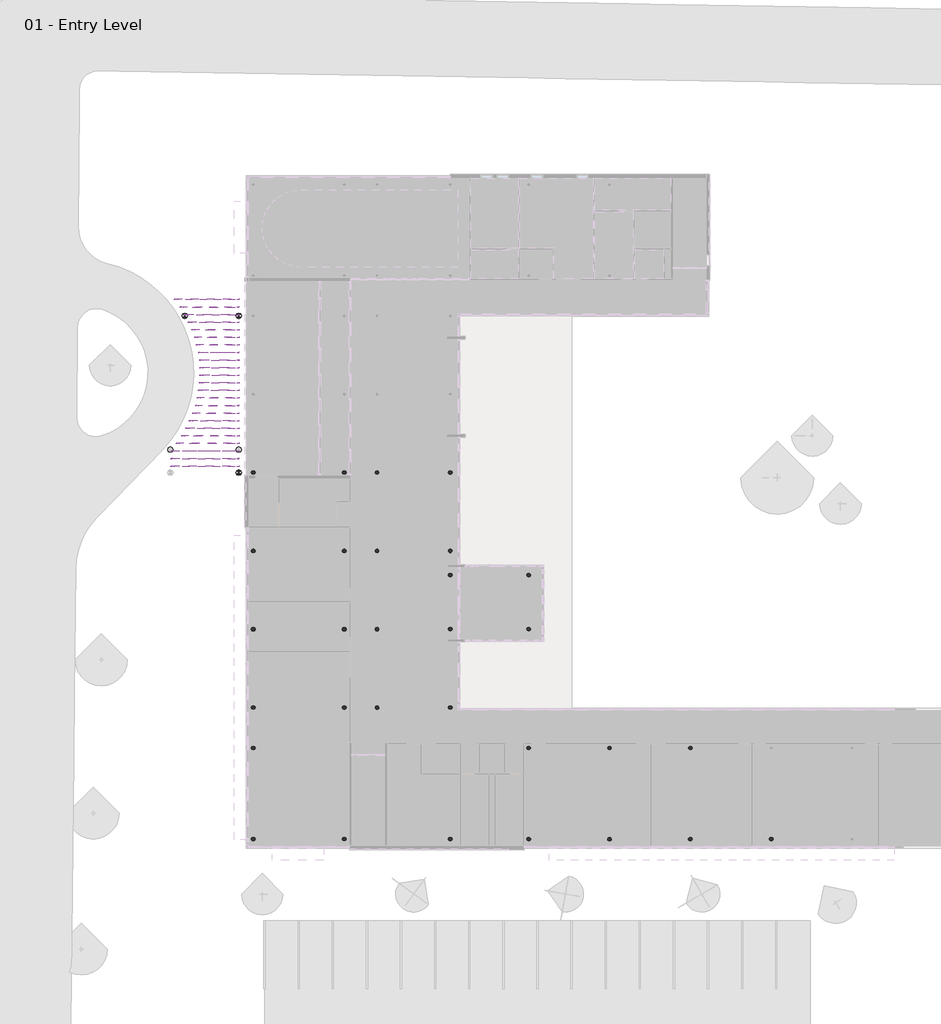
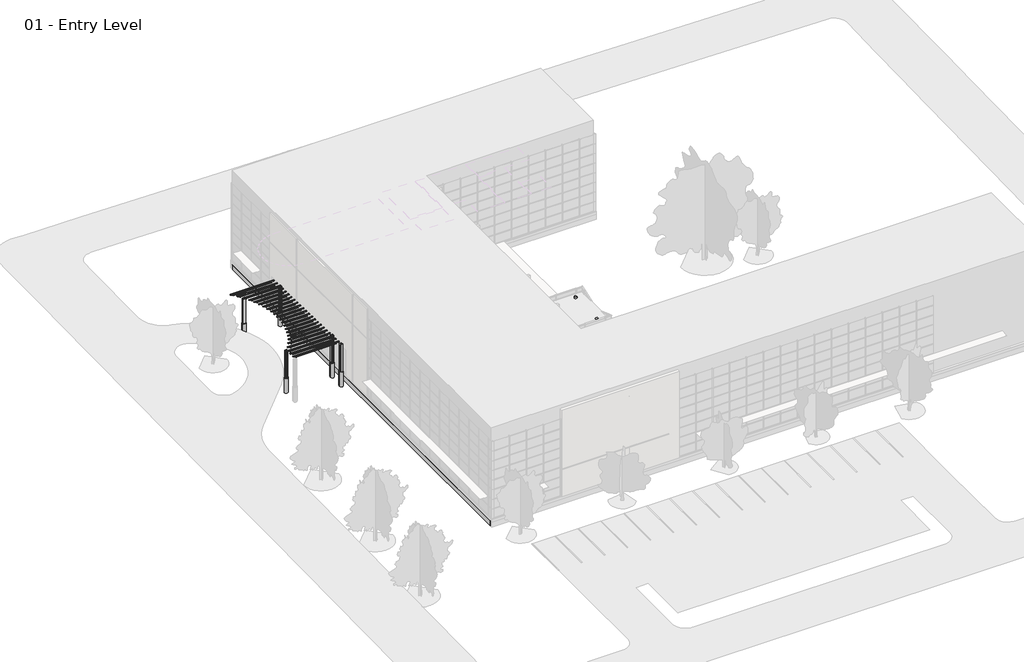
# One storey, part 33 of 35: 40 columns, 28 beams.
"""IFC4 building model written with IfcOpenShell, lengths in millimetres."""

from ifc_helpers import new_model, si_unit, point, frame, frame_2d, origin, origin_with_axes, place, context, project, spatial, polyline, circle_curve, trimmed, segment, composite_curve, outline, extrude, faceted_brep, transform, mapped, element, save
from components import k_series_bar_joist_rod_web_8k1_28a673dc, k_series_bar_joist_rod_web_8k1_6a32b11c, k_series_bar_joist_rod_web_8k1_70c83856, k_series_bar_joist_rod_web_8k1_5e61e8aa, k_series_bar_joist_rod_web_8k1_022d90c5, k_series_bar_joist_rod_web_8k1_8d8b8ead, k_series_bar_joist_rod_web_8k1_cd9e0d93, k_series_bar_joist_rod_web_8k1_b237b75d, k_series_bar_joist_rod_web_8k1_ddfd0a0b, k_series_bar_joist_rod_web_8k1_325491ab, k_series_bar_joist_rod_web_8k1_72458764, k_series_bar_joist_rod_web_8k1_e624906a, k_series_bar_joist_rod_web_8k1_c28a06ce, k_series_bar_joist_rod_web_8k1_099c8507, k_series_bar_joist_rod_web_8k1_99de95d9, k_series_bar_joist_rod_web_8k1_99a1bd95, k_series_bar_joist_rod_web_8k1_ba0566a2, k_series_bar_joist_rod_web_8k1_facdae25, k_series_bar_joist_rod_web_8k1_1f0329fa, k_series_bar_joist_rod_web_8k1_2817c077, k_series_bar_joist_rod_web_8k1_97b35054, k_series_bar_joist_rod_web_8k1_8d9d1768, column_5a4f3ead

model = new_model("IFC4")

# Units and contexts
model_context = context("Model", 3, world=origin())
ifc_project = project(units=[si_unit("LENGTHUNIT", "METRE", prefix="MILLI")], contexts=[model_context])

# Site, building, storey
site = spatial("IfcSite", under=ifc_project)
building = spatial("IfcBuilding", under=site)
storey = spatial("IfcBuildingStorey", under=building, Name="01 - Entry Level", Elevation=0.0)

# Beams
placement = place(None, origin())
element("IfcBeam", 1, ObjectType="Concrete-Rectangular Beam : 12 x 24", at=placement, inside=storey, context=model_context, shape_type="Brep", body=[
    faceted_brep([(17288.7957476, 16751.225, -406.4), (16983.9957476, 16751.225, -406.4), (16983.9957476, 11106.075, -406.4), (17288.7957476, 11106.075, -406.4), (17288.7957476, 16446.425, -406.4), (17288.7957476, 16751.225, -1016.0), (17288.7957476, 11106.075, -1016.0), (17288.7957476, 16446.425, -1016.0), (16983.9957476, 16751.225, -1016.0), (16983.9957476, 11106.075, -1016.0)], [[[0, 1, 2, 3, 4]], [[5, 0, 4, 3, 6, 7]], [[8, 5, 7, 6, 9]], [[1, 8, 9, 2]], [[1, 0, 5, 8]], [[3, 2, 9, 6]]]),
])
element("IfcBeam", 2, ObjectType="Concrete-Rectangular Beam : 12 x 24", at=placement, inside=storey, context=model_context, shape_type="Brep", body=[
    faceted_brep([(24051.7865197, 16446.425, -406.4), (24051.7865197, 16751.225, -406.4), (23746.9865197, 16751.225, -406.4), (17288.7957476, 16751.225, -406.4), (17288.7957476, 16446.425, -406.4), (24051.7865197, 16446.425, -1016.0), (17288.7957476, 16446.425, -1016.0), (24051.7865197, 16751.225, -1016.0), (17288.7957476, 16751.225, -1016.0), (23746.9865197, 16751.225, -1016.0)], [[[0, 1, 2, 3, 4]], [[5, 0, 4, 6]], [[7, 5, 6, 8, 9]], [[1, 7, 9, 8, 3, 2]], [[1, 0, 5, 7]], [[4, 3, 8, 6]]]),
])
element("IfcBeam", 3, ObjectType="Concrete-Rectangular Beam : 12 x 24", at=placement, inside=storey, context=model_context, shape_type="Brep", body=[
    faceted_brep([(24051.7865197, 22650.375, -406.4), (23746.9865197, 22650.375, -406.4), (23746.9865197, 22345.575, -406.4), (23746.9865197, 16751.225, -406.4), (24051.7865197, 16751.225, -406.4), (24051.7865197, 22650.375, -1016.0), (24051.7865197, 16751.225, -1016.0), (23746.9865197, 22650.375, -1016.0), (23746.9865197, 16751.225, -1016.0), (23746.9865197, 22345.575, -1016.0)], [[[0, 1, 2, 3, 4]], [[5, 0, 4, 6]], [[7, 5, 6, 8, 9]], [[1, 7, 9, 8, 3, 2]], [[1, 0, 5, 7]], [[4, 3, 8, 6]]]),
])
element("IfcBeam", 4, ObjectType="Concrete-Rectangular Beam : 12 x 24", at=placement, inside=storey, context=model_context, shape_type="Brep", body=[
    faceted_brep([(16983.9957476, 22650.375, -406.4), (16983.9957476, 22345.575, -406.4), (23746.9865197, 22345.575, -406.4), (23746.9865197, 22650.375, -406.4), (17288.7957476, 22650.375, -406.4), (16983.9957476, 22650.375, -1016.0), (23746.9865197, 22650.375, -1016.0), (17288.7957476, 22650.375, -1016.0), (16983.9957476, 22345.575, -1016.0), (23746.9865197, 22345.575, -1016.0)], [[[0, 1, 2, 3, 4]], [[5, 0, 4, 3, 6, 7]], [[8, 5, 7, 6, 9]], [[1, 8, 9, 2]], [[1, 0, 5, 8]], [[3, 2, 9, 6]]]),
])
element("IfcBeam", 5, ObjectType="Concrete-Rectangular Beam : 12 x 24", at=placement, inside=storey, context=model_context, shape_type="SweptSolid", body=[
    extrude(outline(polyline([(73.9457476, 53625.675), (378.7457476, 53625.675), (378.7457476, 152.325), (73.9457476, 152.325), (73.9457476, 53625.675)])), frame((0.0, 0.0, -1016.0), z_axis=(0.0, 0.0, 1.0), x_axis=(1.0, 0.0, 0.0)), (0.0, 0.0, 1.0), 609.6),
])
k_series_bar_joist_rod_web_8k1_shape = k_series_bar_joist_rod_web_8k1_28a673dc(model_context)
element("IfcBeam", 6, ObjectType="K-Series Bar Joist-Rod Web : 8K1", at=placement, inside=storey, context=model_context, shape_type="MappedRepresentation", body=[
    mapped(k_series_bar_joist_rod_web_8k1_shape, transform((-3104.8739712, 43980.6692262, 3578.0497607), x_axis=(1.0, 0.0, 0.0), y_axis=(0.0, 0.9995376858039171, -0.030404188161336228), z_axis=(0.0, 0.030404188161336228, 0.9995376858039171))),
])
k_series_bar_joist_rod_web_8k1_2_shape = k_series_bar_joist_rod_web_8k1_6a32b11c(model_context)
element("IfcBeam", 7, ObjectType="K-Series Bar Joist-Rod Web : 8K1", at=placement, inside=storey, context=model_context, shape_type="MappedRepresentation", body=[
    mapped(k_series_bar_joist_rod_web_8k1_2_shape, transform((-2881.5442284, 43371.351053, 3596.5841538), x_axis=(1.0, 0.0, 0.0), y_axis=(0.0, 0.9995376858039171, -0.030404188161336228), z_axis=(0.0, 0.030404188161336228, 0.9995376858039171))),
])
k_series_bar_joist_rod_web_8k1_3_shape = k_series_bar_joist_rod_web_8k1_70c83856(model_context)
element("IfcBeam", 8, ObjectType="K-Series Bar Joist-Rod Web : 8K1", at=placement, inside=storey, context=model_context, shape_type="MappedRepresentation", body=[
    mapped(k_series_bar_joist_rod_web_8k1_3_shape, transform((-2692.822966, 42762.0328797, 3615.1185469), x_axis=(1.0, 0.0, 0.0), y_axis=(0.0, 0.9995376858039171, -0.030404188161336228), z_axis=(0.0, 0.030404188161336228, 0.9995376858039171))),
])
k_series_bar_joist_rod_web_8k1_4_shape = k_series_bar_joist_rod_web_8k1_5e61e8aa(model_context)
element("IfcBeam", 9, ObjectType="K-Series Bar Joist-Rod Web : 8K1", at=placement, inside=storey, context=model_context, shape_type="MappedRepresentation", body=[
    mapped(k_series_bar_joist_rod_web_8k1_4_shape, transform((-2534.1156648, 42152.7147064, 3633.65294), x_axis=(1.0, 0.0, 0.0), y_axis=(0.0, 0.9995376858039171, -0.030404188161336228), z_axis=(0.0, 0.030404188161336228, 0.9995376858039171))),
])
k_series_bar_joist_rod_web_8k1_5_shape = k_series_bar_joist_rod_web_8k1_022d90c5(model_context)
element("IfcBeam", 10, ObjectType="K-Series Bar Joist-Rod Web : 8K1", at=placement, inside=storey, context=model_context, shape_type="MappedRepresentation", body=[
    mapped(k_series_bar_joist_rod_web_8k1_5_shape, transform((-2402.1725174, 41543.3965332, 3652.1873331), x_axis=(1.0, 0.0, 0.0), y_axis=(0.0, 0.9995376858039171, -0.030404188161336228), z_axis=(0.0, 0.030404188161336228, 0.9995376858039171))),
])
k_series_bar_joist_rod_web_8k1_6_shape = k_series_bar_joist_rod_web_8k1_8d8b8ead(model_context)
element("IfcBeam", 11, ObjectType="K-Series Bar Joist-Rod Web : 8K1", at=placement, inside=storey, context=model_context, shape_type="MappedRepresentation", body=[
    mapped(k_series_bar_joist_rod_web_8k1_6_shape, transform((-2294.6420394, 40934.0783599, 3670.7217262), x_axis=(1.0, 0.0, 0.0), y_axis=(0.0, 0.9995376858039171, -0.030404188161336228), z_axis=(0.0, 0.030404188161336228, 0.9995376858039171))),
])
k_series_bar_joist_rod_web_8k1_7_shape = k_series_bar_joist_rod_web_8k1_cd9e0d93(model_context)
element("IfcBeam", 12, ObjectType="K-Series Bar Joist-Rod Web : 8K1", at=placement, inside=storey, context=model_context, shape_type="MappedRepresentation", body=[
    mapped(k_series_bar_joist_rod_web_8k1_7_shape, transform((-2209.8086278, 40324.7601866, 3689.2561193), x_axis=(1.0, 0.0, 0.0), y_axis=(0.0, 0.9995376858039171, -0.030404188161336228), z_axis=(0.0, 0.030404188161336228, 0.9995376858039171))),
])
k_series_bar_joist_rod_web_8k1_8_shape = k_series_bar_joist_rod_web_8k1_b237b75d(model_context)
element("IfcBeam", 13, ObjectType="K-Series Bar Joist-Rod Web : 8K1", at=placement, inside=storey, context=model_context, shape_type="MappedRepresentation", body=[
    mapped(k_series_bar_joist_rod_web_8k1_8_shape, transform((-2146.4311179, 39715.4420134, 3707.7905124), x_axis=(1.0, 0.0, 0.0), y_axis=(0.0, 0.9995376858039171, -0.030404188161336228), z_axis=(0.0, 0.030404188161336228, 0.9995376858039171))),
])
k_series_bar_joist_rod_web_8k1_9_shape = k_series_bar_joist_rod_web_8k1_ddfd0a0b(model_context)
element("IfcBeam", 14, ObjectType="K-Series Bar Joist-Rod Web : 8K1", at=placement, inside=storey, context=model_context, shape_type="MappedRepresentation", body=[
    mapped(k_series_bar_joist_rod_web_8k1_9_shape, transform((-2103.640984, 39106.1238401, 3726.3249056), x_axis=(1.0, 0.0, 0.0), y_axis=(0.0, 0.9995376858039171, -0.030404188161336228), z_axis=(0.0, 0.030404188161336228, 0.9995376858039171))),
])
k_series_bar_joist_rod_web_8k1_10_shape = k_series_bar_joist_rod_web_8k1_325491ab(model_context)
element("IfcBeam", 15, ObjectType="K-Series Bar Joist-Rod Web : 8K1", at=placement, inside=storey, context=model_context, shape_type="MappedRepresentation", body=[
    mapped(k_series_bar_joist_rod_web_8k1_10_shape, transform((-2080.8782987, 38496.8056668, 3744.8592987), x_axis=(1.0, 0.0, 0.0), y_axis=(0.0, 0.9995376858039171, -0.030404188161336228), z_axis=(0.0, 0.030404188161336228, 0.9995376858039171))),
])
k_series_bar_joist_rod_web_8k1_11_shape = k_series_bar_joist_rod_web_8k1_72458764(model_context)
element("IfcBeam", 16, ObjectType="K-Series Bar Joist-Rod Web : 8K1", at=placement, inside=storey, context=model_context, shape_type="MappedRepresentation", body=[
    mapped(k_series_bar_joist_rod_web_8k1_11_shape, transform((-2077.8534975, 37887.4874936, 3763.3936918), x_axis=(1.0, 0.0, 0.0), y_axis=(0.0, 0.9995376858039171, -0.030404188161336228), z_axis=(0.0, 0.030404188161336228, 0.9995376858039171))),
])
k_series_bar_joist_rod_web_8k1_12_shape = k_series_bar_joist_rod_web_8k1_e624906a(model_context)
element("IfcBeam", 17, ObjectType="K-Series Bar Joist-Rod Web : 8K1", at=placement, inside=storey, context=model_context, shape_type="MappedRepresentation", body=[
    mapped(k_series_bar_joist_rod_web_8k1_12_shape, transform((-2094.5285249, 37278.1693203, 3781.9280849), x_axis=(1.0, 0.0, 0.0), y_axis=(0.0, 0.9995376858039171, -0.030404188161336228), z_axis=(0.0, 0.030404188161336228, 0.9995376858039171))),
])
k_series_bar_joist_rod_web_8k1_13_shape = k_series_bar_joist_rod_web_8k1_c28a06ce(model_context)
element("IfcBeam", 18, ObjectType="K-Series Bar Joist-Rod Web : 8K1", at=placement, inside=storey, context=model_context, shape_type="MappedRepresentation", body=[
    mapped(k_series_bar_joist_rod_web_8k1_13_shape, transform((-2131.1144026, 36668.851147, 3800.462478), x_axis=(1.0, 0.0, 0.0), y_axis=(0.0, 0.9995376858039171, -0.030404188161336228), z_axis=(0.0, 0.030404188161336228, 0.9995376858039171))),
])
k_series_bar_joist_rod_web_8k1_14_shape = k_series_bar_joist_rod_web_8k1_099c8507(model_context)
element("IfcBeam", 19, ObjectType="K-Series Bar Joist-Rod Web : 8K1", at=placement, inside=storey, context=model_context, shape_type="MappedRepresentation", body=[
    mapped(k_series_bar_joist_rod_web_8k1_14_shape, transform((-2188.0848485, 36059.5329738, 3818.9968711), x_axis=(1.0, 0.0, 0.0), y_axis=(0.0, 0.9995376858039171, -0.030404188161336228), z_axis=(0.0, 0.030404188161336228, 0.9995376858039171))),
])
k_series_bar_joist_rod_web_8k1_15_shape = k_series_bar_joist_rod_web_8k1_99de95d9(model_context)
element("IfcBeam", 20, ObjectType="K-Series Bar Joist-Rod Web : 8K1", at=placement, inside=storey, context=model_context, shape_type="MappedRepresentation", body=[
    mapped(k_series_bar_joist_rod_web_8k1_15_shape, transform((-2266.208057, 35450.2148005, 3837.5312642), x_axis=(1.0, 0.0, 0.0), y_axis=(0.0, 0.9995376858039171, -0.030404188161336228), z_axis=(0.0, 0.030404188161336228, 0.9995376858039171))),
])
k_series_bar_joist_rod_web_8k1_16_shape = k_series_bar_joist_rod_web_8k1_99a1bd95(model_context)
element("IfcBeam", 21, ObjectType="K-Series Bar Joist-Rod Web : 8K1", at=placement, inside=storey, context=model_context, shape_type="MappedRepresentation", body=[
    mapped(k_series_bar_joist_rod_web_8k1_16_shape, transform((-2366.6018476, 34840.8966272, 3856.0656573), x_axis=(1.0, 0.0, 0.0), y_axis=(0.0, 0.9995376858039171, -0.030404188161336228), z_axis=(0.0, 0.030404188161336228, 0.9995376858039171))),
])
k_series_bar_joist_rod_web_8k1_17_shape = k_series_bar_joist_rod_web_8k1_ba0566a2(model_context)
element("IfcBeam", 22, ObjectType="K-Series Bar Joist-Rod Web : 8K1", at=placement, inside=storey, context=model_context, shape_type="MappedRepresentation", body=[
    mapped(k_series_bar_joist_rod_web_8k1_17_shape, transform((-2490.8221092, 34231.578454, 3874.6000504), x_axis=(1.0, 0.0, 0.0), y_axis=(0.0, 0.9995376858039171, -0.030404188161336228), z_axis=(0.0, 0.030404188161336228, 0.9995376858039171))),
])
k_series_bar_joist_rod_web_8k1_18_shape = k_series_bar_joist_rod_web_8k1_facdae25(model_context)
element("IfcBeam", 23, ObjectType="K-Series Bar Joist-Rod Web : 8K1", at=placement, inside=storey, context=model_context, shape_type="MappedRepresentation", body=[
    mapped(k_series_bar_joist_rod_web_8k1_18_shape, transform((-2641.0026789, 33622.2602807, 3893.1344435), x_axis=(1.0, 0.0, 0.0), y_axis=(0.0, 0.9995376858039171, -0.030404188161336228), z_axis=(0.0, 0.030404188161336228, 0.9995376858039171))),
])
k_series_bar_joist_rod_web_8k1_19_shape = k_series_bar_joist_rod_web_8k1_1f0329fa(model_context)
element("IfcBeam", 24, ObjectType="K-Series Bar Joist-Rod Web : 8K1", at=placement, inside=storey, context=model_context, shape_type="MappedRepresentation", body=[
    mapped(k_series_bar_joist_rod_web_8k1_19_shape, transform((-2820.0804836, 33012.9421074, 3911.6688366), x_axis=(1.0, 0.0, 0.0), y_axis=(0.0, 0.9995376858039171, -0.030404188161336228), z_axis=(0.0, 0.030404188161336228, 0.9995376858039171))),
])
k_series_bar_joist_rod_web_8k1_20_shape = k_series_bar_joist_rod_web_8k1_2817c077(model_context)
element("IfcBeam", 25, ObjectType="K-Series Bar Joist-Rod Web : 8K1", at=placement, inside=storey, context=model_context, shape_type="MappedRepresentation", body=[
    mapped(k_series_bar_joist_rod_web_8k1_20_shape, transform((-3032.172395, 32403.6239342, 3930.2032297), x_axis=(1.0, 0.0, 0.0), y_axis=(0.0, 0.9995376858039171, -0.030404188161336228), z_axis=(0.0, 0.030404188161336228, 0.9995376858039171))),
])
k_series_bar_joist_rod_web_8k1_21_shape = k_series_bar_joist_rod_web_8k1_97b35054(model_context)
element("IfcBeam", 26, ObjectType="K-Series Bar Joist-Rod Web : 8K1", at=placement, inside=storey, context=model_context, shape_type="MappedRepresentation", body=[
    mapped(k_series_bar_joist_rod_web_8k1_21_shape, transform((-3234.7719068, 31794.3057609, 3948.7376228), x_axis=(1.0, 0.0, 0.0), y_axis=(0.0, 0.9995376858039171, -0.030404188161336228), z_axis=(0.0, 0.030404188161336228, 0.9995376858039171))),
])
k_series_bar_joist_rod_web_8k1_22_shape = k_series_bar_joist_rod_web_8k1_8d9d1768(model_context)
element("IfcBeam", 27, ObjectType="K-Series Bar Joist-Rod Web : 8K1", at=placement, inside=storey, context=model_context, shape_type="MappedRepresentation", body=[
    mapped(k_series_bar_joist_rod_web_8k1_22_shape, transform((-3234.7719068, 31184.9875876, 3967.2720159), x_axis=(1.0, 0.0, 0.0), y_axis=(0.0, 0.9995376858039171, -0.030404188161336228), z_axis=(0.0, 0.030404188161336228, 0.9995376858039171))),
])
element("IfcBeam", 28, ObjectType="K-Series Bar Joist-Rod Web : 8K1", at=placement, inside=storey, context=model_context, shape_type="MappedRepresentation", body=[
    mapped(k_series_bar_joist_rod_web_8k1_22_shape, transform((-3234.7719068, 30575.6694144, 3985.806409), x_axis=(1.0, 0.0, 0.0), y_axis=(0.0, 0.9995376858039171, -0.030404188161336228), z_axis=(0.0, 0.030404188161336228, 0.9995376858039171))),
])

# Columns
element("IfcColumn", 29, ObjectType="Concrete-Round-Column : 12\"", at=placement, inside=storey, context=model_context, shape_type="SweptSolid", body=[
    extrude(outline(composite_curve([segment(trimmed(circle_curve(frame_2d((635.9207476, 30064.0)), 152.4), [point((788.3207476, 30064.0))], [point((483.5207476, 30064.0))], False, "CARTESIAN"), True, "CONTINUOUS"), segment(trimmed(circle_curve(frame_2d((635.9207476, 30064.0)), 152.4), [point((483.5207476, 30064.0))], [point((788.3207476, 30064.0))], False, "CARTESIAN"), True, "CONTINUOUS")], self_intersect=False)), origin_with_axes(), (0.0, 0.0, 1.0), 3403.6),
])
element("IfcColumn", 30, ObjectType="Concrete-Round-Column : 12\"", at=placement, inside=storey, context=model_context, shape_type="SweptSolid", body=[
    extrude(outline(composite_curve([segment(trimmed(circle_curve(frame_2d((635.9207476, 23764.8)), 152.4), [point((788.3207476, 23764.8))], [point((483.5207476, 23764.8))], False, "CARTESIAN"), True, "CONTINUOUS"), segment(trimmed(circle_curve(frame_2d((635.9207476, 23764.8)), 152.4), [point((483.5207476, 23764.8))], [point((788.3207476, 23764.8))], False, "CARTESIAN"), True, "CONTINUOUS")], self_intersect=False)), origin_with_axes(), (0.0, 0.0, 1.0), 3403.6),
])
element("IfcColumn", 31, ObjectType="Concrete-Round-Column : 12\"", at=placement, inside=storey, context=model_context, shape_type="SweptSolid", body=[
    extrude(outline(composite_curve([segment(trimmed(circle_curve(frame_2d((635.9207476, 17465.6)), 152.4), [point((788.3207476, 17465.6))], [point((483.5207476, 17465.6))], False, "CARTESIAN"), True, "CONTINUOUS"), segment(trimmed(circle_curve(frame_2d((635.9207476, 17465.6)), 152.4), [point((483.5207476, 17465.6))], [point((788.3207476, 17465.6))], False, "CARTESIAN"), True, "CONTINUOUS")], self_intersect=False)), origin_with_axes(), (0.0, 0.0, 1.0), 3403.6),
])
element("IfcColumn", 32, ObjectType="Concrete-Round-Column : 12\"", at=placement, inside=storey, context=model_context, shape_type="SweptSolid", body=[
    extrude(outline(composite_curve([segment(trimmed(circle_curve(frame_2d((635.9207476, 11166.4)), 152.4), [point((788.3207476, 11166.4))], [point((483.5207476, 11166.4))], False, "CARTESIAN"), True, "CONTINUOUS"), segment(trimmed(circle_curve(frame_2d((635.9207476, 11166.4)), 152.4), [point((483.5207476, 11166.4))], [point((788.3207476, 11166.4))], False, "CARTESIAN"), True, "CONTINUOUS")], self_intersect=False)), origin_with_axes(), (0.0, 0.0, 1.0), 3403.6),
])
element("IfcColumn", 33, ObjectType="Concrete-Round-Column : 12\"", at=placement, inside=storey, context=model_context, shape_type="SweptSolid", body=[
    extrude(outline(composite_curve([segment(trimmed(circle_curve(frame_2d((635.9207476, 7915.2)), 152.4), [point((788.3207476, 7915.2))], [point((483.5207476, 7915.2))], False, "CARTESIAN"), True, "CONTINUOUS"), segment(trimmed(circle_curve(frame_2d((635.9207476, 7915.2)), 152.4), [point((483.5207476, 7915.2))], [point((788.3207476, 7915.2))], False, "CARTESIAN"), True, "CONTINUOUS")], self_intersect=False)), origin_with_axes(), (0.0, 0.0, 1.0), 3403.6),
])
element("IfcColumn", 34, ObjectType="Concrete-Round-Column : 12\"", at=placement, inside=storey, context=model_context, shape_type="SweptSolid", body=[
    extrude(outline(composite_curve([segment(trimmed(circle_curve(frame_2d((635.9207476, 600.0)), 152.4), [point((788.3207476, 600.0))], [point((483.5207476, 600.0))], False, "CARTESIAN"), True, "CONTINUOUS"), segment(trimmed(circle_curve(frame_2d((635.9207476, 600.0)), 152.4), [point((483.5207476, 600.0))], [point((788.3207476, 600.0))], False, "CARTESIAN"), True, "CONTINUOUS")], self_intersect=False)), origin_with_axes(), (0.0, 0.0, 1.0), 3403.6),
])
element("IfcColumn", 35, ObjectType="Concrete-Round-Column : 12\"", at=placement, inside=storey, context=model_context, shape_type="SweptSolid", body=[
    extrude(outline(composite_curve([segment(trimmed(circle_curve(frame_2d((10592.7207476, 30064.0)), 152.4), [point((10745.1207476, 30064.0))], [point((10440.3207476, 30064.0))], False, "CARTESIAN"), True, "CONTINUOUS"), segment(trimmed(circle_curve(frame_2d((10592.7207476, 30064.0)), 152.4), [point((10440.3207476, 30064.0))], [point((10745.1207476, 30064.0))], False, "CARTESIAN"), True, "CONTINUOUS")], self_intersect=False)), origin_with_axes(), (0.0, 0.0, 1.0), 3403.6),
])
element("IfcColumn", 36, ObjectType="Concrete-Round-Column : 12\"", at=placement, inside=storey, context=model_context, shape_type="SweptSolid", body=[
    extrude(outline(composite_curve([segment(trimmed(circle_curve(frame_2d((10592.7207476, 23764.8)), 152.4), [point((10745.1207476, 23764.8))], [point((10440.3207476, 23764.8))], False, "CARTESIAN"), True, "CONTINUOUS"), segment(trimmed(circle_curve(frame_2d((10592.7207476, 23764.8)), 152.4), [point((10440.3207476, 23764.8))], [point((10745.1207476, 23764.8))], False, "CARTESIAN"), True, "CONTINUOUS")], self_intersect=False)), origin_with_axes(), (0.0, 0.0, 1.0), 3403.6),
])
element("IfcColumn", 37, ObjectType="Concrete-Round-Column : 12\"", at=placement, inside=storey, context=model_context, shape_type="SweptSolid", body=[
    extrude(outline(composite_curve([segment(trimmed(circle_curve(frame_2d((10592.7207476, 17465.6)), 152.4), [point((10745.1207476, 17465.6))], [point((10440.3207476, 17465.6))], False, "CARTESIAN"), True, "CONTINUOUS"), segment(trimmed(circle_curve(frame_2d((10592.7207476, 17465.6)), 152.4), [point((10440.3207476, 17465.6))], [point((10745.1207476, 17465.6))], False, "CARTESIAN"), True, "CONTINUOUS")], self_intersect=False)), origin_with_axes(), (0.0, 0.0, 1.0), 3403.6),
])
element("IfcColumn", 38, ObjectType="Concrete-Round-Column : 12\"", at=placement, inside=storey, context=model_context, shape_type="SweptSolid", body=[
    extrude(outline(composite_curve([segment(trimmed(circle_curve(frame_2d((10592.7207476, 11166.4)), 152.4), [point((10745.1207476, 11166.4))], [point((10440.3207476, 11166.4))], False, "CARTESIAN"), True, "CONTINUOUS"), segment(trimmed(circle_curve(frame_2d((10592.7207476, 11166.4)), 152.4), [point((10440.3207476, 11166.4))], [point((10745.1207476, 11166.4))], False, "CARTESIAN"), True, "CONTINUOUS")], self_intersect=False)), origin_with_axes(), (0.0, 0.0, 1.0), 3403.6),
])
element("IfcColumn", 39, ObjectType="Concrete-Round-Column : 12\"", at=placement, inside=storey, context=model_context, shape_type="SweptSolid", body=[
    extrude(outline(composite_curve([segment(trimmed(circle_curve(frame_2d((16485.5207476, 30064.0)), 152.4), [point((16637.9207476, 30064.0))], [point((16333.1207476, 30064.0))], False, "CARTESIAN"), True, "CONTINUOUS"), segment(trimmed(circle_curve(frame_2d((16485.5207476, 30064.0)), 152.4), [point((16333.1207476, 30064.0))], [point((16637.9207476, 30064.0))], False, "CARTESIAN"), True, "CONTINUOUS")], self_intersect=False)), origin_with_axes(), (0.0, 0.0, 1.0), 3403.6),
])
element("IfcColumn", 40, ObjectType="Concrete-Round-Column : 12\"", at=placement, inside=storey, context=model_context, shape_type="SweptSolid", body=[
    extrude(outline(composite_curve([segment(trimmed(circle_curve(frame_2d((16485.5207476, 23764.8)), 152.4), [point((16637.9207476, 23764.8))], [point((16333.1207476, 23764.8))], False, "CARTESIAN"), True, "CONTINUOUS"), segment(trimmed(circle_curve(frame_2d((16485.5207476, 23764.8)), 152.4), [point((16333.1207476, 23764.8))], [point((16637.9207476, 23764.8))], False, "CARTESIAN"), True, "CONTINUOUS")], self_intersect=False)), origin_with_axes(), (0.0, 0.0, 1.0), 3403.6),
])
element("IfcColumn", 41, ObjectType="Concrete-Round-Column : 12\"", at=placement, inside=storey, context=model_context, shape_type="SweptSolid", body=[
    extrude(outline(composite_curve([segment(trimmed(circle_curve(frame_2d((16485.5207476, 17465.6)), 152.4), [point((16637.9207476, 17465.6))], [point((16333.1207476, 17465.6))], False, "CARTESIAN"), True, "CONTINUOUS"), segment(trimmed(circle_curve(frame_2d((16485.5207476, 17465.6)), 152.4), [point((16333.1207476, 17465.6))], [point((16637.9207476, 17465.6))], False, "CARTESIAN"), True, "CONTINUOUS")], self_intersect=False)), origin_with_axes(), (0.0, 0.0, 1.0), 3403.6),
])
element("IfcColumn", 42, ObjectType="Concrete-Round-Column : 12\"", at=placement, inside=storey, context=model_context, shape_type="SweptSolid", body=[
    extrude(outline(composite_curve([segment(trimmed(circle_curve(frame_2d((16485.5207476, 11166.4)), 152.4), [point((16637.9207476, 11166.4))], [point((16333.1207476, 11166.4))], False, "CARTESIAN"), True, "CONTINUOUS"), segment(trimmed(circle_curve(frame_2d((16485.5207476, 11166.4)), 152.4), [point((16333.1207476, 11166.4))], [point((16637.9207476, 11166.4))], False, "CARTESIAN"), True, "CONTINUOUS")], self_intersect=False)), origin_with_axes(), (0.0, 0.0, 1.0), 3403.6),
])
element("IfcColumn", 43, ObjectType="Concrete-Round-Column : 12\"", at=placement, inside=storey, context=model_context, shape_type="SweptSolid", body=[
    extrude(outline(composite_curve([segment(trimmed(circle_curve(frame_2d((16485.5207476, 600.0)), 152.4), [point((16637.9207476, 600.0))], [point((16333.1207476, 600.0))], False, "CARTESIAN"), True, "CONTINUOUS"), segment(trimmed(circle_curve(frame_2d((16485.5207476, 600.0)), 152.4), [point((16333.1207476, 600.0))], [point((16637.9207476, 600.0))], False, "CARTESIAN"), True, "CONTINUOUS")], self_intersect=False)), origin_with_axes(), (0.0, 0.0, 1.0), 3403.6),
])
element("IfcColumn", 44, ObjectType="Concrete-Round-Column : 12\"", at=placement, inside=storey, context=model_context, shape_type="SweptSolid", body=[
    extrude(outline(composite_curve([segment(trimmed(circle_curve(frame_2d((16485.5207476, 21821.7)), 152.4), [point((16637.9207476, 21821.7))], [point((16333.1207476, 21821.7))], False, "CARTESIAN"), True, "CONTINUOUS"), segment(trimmed(circle_curve(frame_2d((16485.5207476, 21821.7)), 152.4), [point((16333.1207476, 21821.7))], [point((16637.9207476, 21821.7))], False, "CARTESIAN"), True, "CONTINUOUS")], self_intersect=False)), origin_with_axes(), (0.0, 0.0, 1.0), 3403.6),
])
element("IfcColumn", 45, ObjectType="Concrete-Round-Column : 12\"", at=placement, inside=storey, context=model_context, shape_type="SweptSolid", body=[
    extrude(outline(composite_curve([segment(trimmed(circle_curve(frame_2d((22784.7207476, 17465.6)), 152.4), [point((22937.1207476, 17465.6))], [point((22632.3207476, 17465.6))], False, "CARTESIAN"), True, "CONTINUOUS"), segment(trimmed(circle_curve(frame_2d((22784.7207476, 17465.6)), 152.4), [point((22632.3207476, 17465.6))], [point((22937.1207476, 17465.6))], False, "CARTESIAN"), True, "CONTINUOUS")], self_intersect=False)), origin_with_axes(), (0.0, 0.0, 1.0), 6782.5756061),
])
element("IfcColumn", 46, ObjectType="Concrete-Round-Column : 12\"", at=placement, inside=storey, context=model_context, shape_type="SweptSolid", body=[
    extrude(outline(composite_curve([segment(trimmed(circle_curve(frame_2d((22784.7207476, 7915.2)), 152.4), [point((22937.1207476, 7915.2))], [point((22632.3207476, 7915.2))], False, "CARTESIAN"), True, "CONTINUOUS"), segment(trimmed(circle_curve(frame_2d((22784.7207476, 7915.2)), 152.4), [point((22632.3207476, 7915.2))], [point((22937.1207476, 7915.2))], False, "CARTESIAN"), True, "CONTINUOUS")], self_intersect=False)), origin_with_axes(), (0.0, 0.0, 1.0), 3403.6),
])
element("IfcColumn", 47, ObjectType="Concrete-Round-Column : 12\"", at=placement, inside=storey, context=model_context, shape_type="SweptSolid", body=[
    extrude(outline(composite_curve([segment(trimmed(circle_curve(frame_2d((22784.7207476, 600.0)), 152.4), [point((22937.1207476, 600.0))], [point((22632.3207476, 600.0))], False, "CARTESIAN"), True, "CONTINUOUS"), segment(trimmed(circle_curve(frame_2d((22784.7207476, 600.0)), 152.4), [point((22632.3207476, 600.0))], [point((22937.1207476, 600.0))], False, "CARTESIAN"), True, "CONTINUOUS")], self_intersect=False)), origin_with_axes(), (0.0, 0.0, 1.0), 3403.6),
])
element("IfcColumn", 48, ObjectType="Concrete-Round-Column : 12\"", at=placement, inside=storey, context=model_context, shape_type="SweptSolid", body=[
    extrude(outline(composite_curve([segment(trimmed(circle_curve(frame_2d((22784.7207476, 21821.7)), 152.4), [point((22937.1207476, 21821.7))], [point((22632.3207476, 21821.7))], False, "CARTESIAN"), True, "CONTINUOUS"), segment(trimmed(circle_curve(frame_2d((22784.7207476, 21821.7)), 152.4), [point((22632.3207476, 21821.7))], [point((22937.1207476, 21821.7))], False, "CARTESIAN"), True, "CONTINUOUS")], self_intersect=False)), origin_with_axes(), (0.0, 0.0, 1.0), 6877.8256061),
])
element("IfcColumn", 49, ObjectType="Concrete-Round-Column : 12\"", at=placement, inside=storey, context=model_context, shape_type="SweptSolid", body=[
    extrude(outline(composite_curve([segment(trimmed(circle_curve(frame_2d((29287.1207476, 7915.2)), 152.4), [point((29439.5207476, 7915.2))], [point((29134.7207476, 7915.2))], False, "CARTESIAN"), True, "CONTINUOUS"), segment(trimmed(circle_curve(frame_2d((29287.1207476, 7915.2)), 152.4), [point((29134.7207476, 7915.2))], [point((29439.5207476, 7915.2))], False, "CARTESIAN"), True, "CONTINUOUS")], self_intersect=False)), origin_with_axes(), (0.0, 0.0, 1.0), 3403.6),
])
element("IfcColumn", 50, ObjectType="Concrete-Round-Column : 12\"", at=placement, inside=storey, context=model_context, shape_type="SweptSolid", body=[
    extrude(outline(composite_curve([segment(trimmed(circle_curve(frame_2d((29287.1207476, 600.0)), 152.4), [point((29439.5207476, 600.0))], [point((29134.7207476, 600.0))], False, "CARTESIAN"), True, "CONTINUOUS"), segment(trimmed(circle_curve(frame_2d((29287.1207476, 600.0)), 152.4), [point((29134.7207476, 600.0))], [point((29439.5207476, 600.0))], False, "CARTESIAN"), True, "CONTINUOUS")], self_intersect=False)), origin_with_axes(), (0.0, 0.0, 1.0), 3403.6),
])
element("IfcColumn", 51, ObjectType="Concrete-Round-Column : 12\"", at=placement, inside=storey, context=model_context, shape_type="SweptSolid", body=[
    extrude(outline(composite_curve([segment(trimmed(circle_curve(frame_2d((35789.5207476, 7915.2)), 152.4), [point((35941.9207476, 7915.2))], [point((35637.1207476, 7915.2))], False, "CARTESIAN"), True, "CONTINUOUS"), segment(trimmed(circle_curve(frame_2d((35789.5207476, 7915.2)), 152.4), [point((35637.1207476, 7915.2))], [point((35941.9207476, 7915.2))], False, "CARTESIAN"), True, "CONTINUOUS")], self_intersect=False)), origin_with_axes(), (0.0, 0.0, 1.0), 3403.6),
])
element("IfcColumn", 52, ObjectType="Concrete-Round-Column : 12\"", at=placement, inside=storey, context=model_context, shape_type="SweptSolid", body=[
    extrude(outline(composite_curve([segment(trimmed(circle_curve(frame_2d((35789.5207476, 600.0)), 152.4), [point((35941.9207476, 600.0))], [point((35637.1207476, 600.0))], False, "CARTESIAN"), True, "CONTINUOUS"), segment(trimmed(circle_curve(frame_2d((35789.5207476, 600.0)), 152.4), [point((35637.1207476, 600.0))], [point((35941.9207476, 600.0))], False, "CARTESIAN"), True, "CONTINUOUS")], self_intersect=False)), origin_with_axes(), (0.0, 0.0, 1.0), 3403.6),
])
element("IfcColumn", 53, ObjectType="Concrete-Round-Column : 12\"", at=placement, inside=storey, context=model_context, shape_type="SweptSolid", body=[
    extrude(outline(composite_curve([segment(trimmed(circle_curve(frame_2d((42291.9207476, 600.0)), 152.4), [point((42444.3207476, 600.0))], [point((42139.5207476, 600.0))], False, "CARTESIAN"), True, "CONTINUOUS"), segment(trimmed(circle_curve(frame_2d((42291.9207476, 600.0)), 152.4), [point((42139.5207476, 600.0))], [point((42444.3207476, 600.0))], False, "CARTESIAN"), True, "CONTINUOUS")], self_intersect=False)), origin_with_axes(), (0.0, 0.0, 1.0), 3403.6),
])
element("IfcColumn", 54, ObjectType="Concrete-Round-Column : 12\"", at=placement, inside=storey, context=model_context, shape_type="SweptSolid", body=[
    extrude(outline(composite_curve([segment(trimmed(circle_curve(frame_2d((7951.1207476, 30064.0)), 152.4), [point((8103.5207476, 30064.0))], [point((7798.7207476, 30064.0))], False, "CARTESIAN"), True, "CONTINUOUS"), segment(trimmed(circle_curve(frame_2d((7951.1207476, 30064.0)), 152.4), [point((7798.7207476, 30064.0))], [point((8103.5207476, 30064.0))], False, "CARTESIAN"), True, "CONTINUOUS")], self_intersect=False)), origin_with_axes(), (0.0, 0.0, 1.0), 3403.6),
])
element("IfcColumn", 55, ObjectType="Concrete-Round-Column : 12\"", at=placement, inside=storey, context=model_context, shape_type="SweptSolid", body=[
    extrude(outline(composite_curve([segment(trimmed(circle_curve(frame_2d((7951.1207476, 23764.8)), 152.4), [point((8103.5207476, 23764.8))], [point((7798.7207476, 23764.8))], False, "CARTESIAN"), True, "CONTINUOUS"), segment(trimmed(circle_curve(frame_2d((7951.1207476, 23764.8)), 152.4), [point((7798.7207476, 23764.8))], [point((8103.5207476, 23764.8))], False, "CARTESIAN"), True, "CONTINUOUS")], self_intersect=False)), origin_with_axes(), (0.0, 0.0, 1.0), 3403.6),
])
element("IfcColumn", 56, ObjectType="Concrete-Round-Column : 12\"", at=placement, inside=storey, context=model_context, shape_type="SweptSolid", body=[
    extrude(outline(composite_curve([segment(trimmed(circle_curve(frame_2d((7951.1207476, 17465.6)), 152.4), [point((8103.5207476, 17465.6))], [point((7798.7207476, 17465.6))], False, "CARTESIAN"), True, "CONTINUOUS"), segment(trimmed(circle_curve(frame_2d((7951.1207476, 17465.6)), 152.4), [point((7798.7207476, 17465.6))], [point((8103.5207476, 17465.6))], False, "CARTESIAN"), True, "CONTINUOUS")], self_intersect=False)), origin_with_axes(), (0.0, 0.0, 1.0), 3403.6),
])
element("IfcColumn", 57, ObjectType="Concrete-Round-Column : 12\"", at=placement, inside=storey, context=model_context, shape_type="SweptSolid", body=[
    extrude(outline(composite_curve([segment(trimmed(circle_curve(frame_2d((7951.1207476, 11166.4)), 152.4), [point((8103.5207476, 11166.4))], [point((7798.7207476, 11166.4))], False, "CARTESIAN"), True, "CONTINUOUS"), segment(trimmed(circle_curve(frame_2d((7951.1207476, 11166.4)), 152.4), [point((7798.7207476, 11166.4))], [point((8103.5207476, 11166.4))], False, "CARTESIAN"), True, "CONTINUOUS")], self_intersect=False)), origin_with_axes(), (0.0, 0.0, 1.0), 3403.6),
])
element("IfcColumn", 58, ObjectType="Concrete-Round-Column : 12\"", at=placement, inside=storey, context=model_context, shape_type="SweptSolid", body=[
    extrude(outline(composite_curve([segment(trimmed(circle_curve(frame_2d((7951.1207476, 600.0)), 152.4), [point((8103.5207476, 600.0))], [point((7798.7207476, 600.0))], False, "CARTESIAN"), True, "CONTINUOUS"), segment(trimmed(circle_curve(frame_2d((7951.1207476, 600.0)), 152.4), [point((7798.7207476, 600.0))], [point((8103.5207476, 600.0))], False, "CARTESIAN"), True, "CONTINUOUS")], self_intersect=False)), origin_with_axes(), (0.0, 0.0, 1.0), 3403.6),
])
column_shape = column_5a4f3ead(model_context)
element("IfcColumn", 59, ObjectType="Concrete-Round-Column1 : 18\"", at=placement, inside=storey, context=model_context, shape_type="MappedRepresentation", body=[
    mapped(column_shape, transform((-6018.8792524, 31909.0364163, 0.0), x_axis=(1.0, 0.0, 0.0), y_axis=(0.0, 1.0, 0.0), z_axis=(0.0, 0.0, 1.0))),
])
element("IfcColumn", 60, ObjectType="Concrete-Round-Column1 : 18\"", at=placement, inside=storey, context=model_context, shape_type="MappedRepresentation", body=[
    mapped(column_shape, transform((-532.4792524, 30064.0, 0.0), x_axis=(1.0, 0.0, 0.0), y_axis=(0.0, 1.0, 0.0), z_axis=(0.0, 0.0, 1.0))),
])
element("IfcColumn", 61, ObjectType="Concrete-Round-Column1 : 18\"", at=placement, inside=storey, context=model_context, shape_type="MappedRepresentation", body=[
    mapped(column_shape, transform((-532.4792524, 31909.0364163, 0.0), x_axis=(1.0, 0.0, 0.0), y_axis=(0.0, 1.0, 0.0), z_axis=(0.0, 0.0, 1.0))),
])
element("IfcColumn", 62, ObjectType="Concrete-Round-Column1 : 18\"", at=placement, inside=storey, context=model_context, shape_type="MappedRepresentation", body=[
    mapped(column_shape, transform((-4873.7100995, 42662.4, 0.0), x_axis=(1.0, 0.0, 0.0), y_axis=(0.0, 1.0, 0.0), z_axis=(0.0, 0.0, 1.0))),
])
element("IfcColumn", 63, ObjectType="Concrete-Round-Column1 : 18\"", at=placement, inside=storey, context=model_context, shape_type="MappedRepresentation", body=[
    mapped(column_shape, transform((-532.4792524, 42662.4, 0.0), x_axis=(1.0, 0.0, 0.0), y_axis=(0.0, 1.0, 0.0), z_axis=(0.0, 0.0, 1.0))),
])
element("IfcColumn", 64, ObjectType="W-Wide Flange-Column : W10X49", at=placement, inside=storey, context=model_context, shape_type="SweptSolid", body=[
    extrude(outline(composite_curve([segment(polyline([(-405.4792524, 30190.7519531), (-405.4792524, 30176.5636719), (-510.601518, 30176.5636719)]), True, "CONTINUOUS"), segment(trimmed(circle_curve(frame_2d((-510.601518, 30159.0019531)), 17.5617187), [point((-510.601518, 30176.5636719))], [point((-528.1632367, 30159.0019531))], True, "CARTESIAN"), True, "CONTINUOUS"), segment(polyline([(-528.1632367, 30159.0019531), (-528.1632367, 29968.9980469)]), True, "CONTINUOUS"), segment(trimmed(circle_curve(frame_2d((-510.601518, 29968.9980469)), 17.5617188), [point((-528.1632367, 29968.9980469))], [point((-510.601518, 29951.4363281))], True, "CARTESIAN"), True, "CONTINUOUS"), segment(polyline([(-510.601518, 29951.4363281), (-405.4792524, 29951.4363281), (-405.4792524, 29937.2480469), (-659.4792524, 29937.2480469), (-659.4792524, 29951.4363281), (-554.3569867, 29951.4363281)]), True, "CONTINUOUS"), segment(trimmed(circle_curve(frame_2d((-554.3569867, 29968.9980469)), 17.5617188), [point((-554.3569867, 29951.4363281))], [point((-536.795268, 29968.9980469))], True, "CARTESIAN"), True, "CONTINUOUS"), segment(polyline([(-536.795268, 29968.9980469), (-536.795268, 30159.0019531)]), True, "CONTINUOUS"), segment(trimmed(circle_curve(frame_2d((-554.3569867, 30159.0019531)), 17.5617188), [point((-536.795268, 30159.0019531))], [point((-554.3569867, 30176.5636719))], True, "CARTESIAN"), True, "CONTINUOUS"), segment(polyline([(-554.3569867, 30176.5636719), (-659.4792524, 30176.5636719), (-659.4792524, 30190.7519531), (-405.4792524, 30190.7519531)]), True, "CONTINUOUS")], self_intersect=False)), frame((0.0, 0.0, 609.6), z_axis=(0.0, 0.0, 1.0), x_axis=(1.0, 0.0, 0.0)), (0.0, 0.0, 1.0), 3489.5619178),
])
element("IfcColumn", 65, ObjectType="W-Wide Flange-Column : W10X49", at=placement, inside=storey, context=model_context, shape_type="SweptSolid", body=[
    extrude(outline(composite_curve([segment(polyline([(-405.4792524, 42789.1519531), (-405.4792524, 42774.9636719), (-510.601518, 42774.9636719)]), True, "CONTINUOUS"), segment(trimmed(circle_curve(frame_2d((-510.601518, 42757.4019531)), 17.5617188), [point((-510.601518, 42774.9636719))], [point((-528.1632367, 42757.4019531))], True, "CARTESIAN"), True, "CONTINUOUS"), segment(polyline([(-528.1632367, 42757.4019531), (-528.1632367, 42567.3980469)]), True, "CONTINUOUS"), segment(trimmed(circle_curve(frame_2d((-510.601518, 42567.3980469)), 17.5617188), [point((-528.1632367, 42567.3980469))], [point((-510.601518, 42549.8363281))], True, "CARTESIAN"), True, "CONTINUOUS"), segment(polyline([(-510.601518, 42549.8363281), (-405.4792524, 42549.8363281), (-405.4792524, 42535.6480469), (-659.4792524, 42535.6480469), (-659.4792524, 42549.8363281), (-554.3569867, 42549.8363281)]), True, "CONTINUOUS"), segment(trimmed(circle_curve(frame_2d((-554.3569867, 42567.3980469)), 17.5617188), [point((-554.3569867, 42549.8363281))], [point((-536.795268, 42567.3980469))], True, "CARTESIAN"), True, "CONTINUOUS"), segment(polyline([(-536.795268, 42567.3980469), (-536.795268, 42757.4019531)]), True, "CONTINUOUS"), segment(trimmed(circle_curve(frame_2d((-554.3569867, 42757.4019531)), 17.5617188), [point((-536.795268, 42757.4019531))], [point((-554.3569867, 42774.9636719))], True, "CARTESIAN"), True, "CONTINUOUS"), segment(polyline([(-554.3569867, 42774.9636719), (-659.4792524, 42774.9636719), (-659.4792524, 42789.1519531), (-405.4792524, 42789.1519531)]), True, "CONTINUOUS")], self_intersect=False)), frame((0.0, 0.0, 609.6), z_axis=(0.0, 0.0, 1.0), x_axis=(1.0, 0.0, 0.0)), (0.0, 0.0, 1.0), 3106.340625),
])
element("IfcColumn", 66, ObjectType="W-Wide Flange-Column : W10X49", at=placement, inside=storey, context=model_context, shape_type="SweptSolid", body=[
    extrude(outline(composite_curve([segment(polyline([(-4746.7100995, 42789.1519531), (-4746.7100995, 42774.9636719), (-4851.8323651, 42774.9636719)]), True, "CONTINUOUS"), segment(trimmed(circle_curve(frame_2d((-4851.8323651, 42757.4019531)), 17.5617188), [point((-4851.8323651, 42774.9636719))], [point((-4869.3940839, 42757.4019531))], True, "CARTESIAN"), True, "CONTINUOUS"), segment(polyline([(-4869.3940839, 42757.4019531), (-4869.3940839, 42567.3980469)]), True, "CONTINUOUS"), segment(trimmed(circle_curve(frame_2d((-4851.8323651, 42567.3980469)), 17.5617188), [point((-4869.3940839, 42567.3980469))], [point((-4851.8323651, 42549.8363281))], True, "CARTESIAN"), True, "CONTINUOUS"), segment(polyline([(-4851.8323651, 42549.8363281), (-4746.7100995, 42549.8363281), (-4746.7100995, 42535.6480469), (-5000.7100995, 42535.6480469), (-5000.7100995, 42549.8363281), (-4895.5878339, 42549.8363281)]), True, "CONTINUOUS"), segment(trimmed(circle_curve(frame_2d((-4895.5878339, 42567.3980469)), 17.5617188), [point((-4895.5878339, 42549.8363281))], [point((-4878.0261151, 42567.3980469))], True, "CARTESIAN"), True, "CONTINUOUS"), segment(polyline([(-4878.0261151, 42567.3980469), (-4878.0261151, 42757.4019531)]), True, "CONTINUOUS"), segment(trimmed(circle_curve(frame_2d((-4895.5878339, 42757.4019531)), 17.5617188), [point((-4878.0261151, 42757.4019531))], [point((-4895.5878339, 42774.9636719))], True, "CARTESIAN"), True, "CONTINUOUS"), segment(polyline([(-4895.5878339, 42774.9636719), (-5000.7100995, 42774.9636719), (-5000.7100995, 42789.1519531), (-4746.7100995, 42789.1519531)]), True, "CONTINUOUS")], self_intersect=False)), frame((0.0, 0.0, 609.6), z_axis=(0.0, 0.0, 1.0), x_axis=(1.0, 0.0, 0.0)), (0.0, 0.0, 1.0), 3106.340625),
])
element("IfcColumn", 67, ObjectType="W-Wide Flange-Column : W10X49", at=placement, inside=storey, context=model_context, shape_type="SweptSolid", body=[
    extrude(outline(composite_curve([segment(polyline([(-5891.8792524, 32035.7883694), (-5891.8792524, 32021.6000882), (-5997.001518, 32021.6000882)]), True, "CONTINUOUS"), segment(trimmed(circle_curve(frame_2d((-5997.001518, 32004.0383694)), 17.5617187), [point((-5997.001518, 32021.6000882))], [point((-6014.5632367, 32004.0383694))], True, "CARTESIAN"), True, "CONTINUOUS"), segment(polyline([(-6014.5632367, 32004.0383694), (-6014.5632367, 31814.0344632)]), True, "CONTINUOUS"), segment(trimmed(circle_curve(frame_2d((-5997.001518, 31814.0344632)), 17.5617188), [point((-6014.5632367, 31814.0344632))], [point((-5997.001518, 31796.4727444))], True, "CARTESIAN"), True, "CONTINUOUS"), segment(polyline([(-5997.001518, 31796.4727444), (-5891.8792524, 31796.4727444), (-5891.8792524, 31782.2844632), (-6145.8792524, 31782.2844632), (-6145.8792524, 31796.4727444), (-6040.7569867, 31796.4727444)]), True, "CONTINUOUS"), segment(trimmed(circle_curve(frame_2d((-6040.7569867, 31814.0344632)), 17.5617188), [point((-6040.7569867, 31796.4727444))], [point((-6023.195268, 31814.0344632))], True, "CARTESIAN"), True, "CONTINUOUS"), segment(polyline([(-6023.195268, 31814.0344632), (-6023.195268, 32004.0383694)]), True, "CONTINUOUS"), segment(trimmed(circle_curve(frame_2d((-6040.7569867, 32004.0383694)), 17.5617188), [point((-6023.195268, 32004.0383694))], [point((-6040.7569867, 32021.6000882))], True, "CARTESIAN"), True, "CONTINUOUS"), segment(polyline([(-6040.7569867, 32021.6000882), (-6145.8792524, 32021.6000882), (-6145.8792524, 32035.7883694), (-5891.8792524, 32035.7883694)]), True, "CONTINUOUS")], self_intersect=False)), frame((0.0, 0.0, 609.6), z_axis=(0.0, 0.0, 1.0), x_axis=(1.0, 0.0, 0.0)), (0.0, 0.0, 1.0), 3433.4391371),
])
element("IfcColumn", 68, ObjectType="W-Wide Flange-Column : W10X49", at=placement, inside=storey, context=model_context, shape_type="SweptSolid", body=[
    extrude(outline(composite_curve([segment(polyline([(-405.4792524, 32035.7883694), (-405.4792524, 32021.6000882), (-510.601518, 32021.6000882)]), True, "CONTINUOUS"), segment(trimmed(circle_curve(frame_2d((-510.601518, 32004.0383694)), 17.5617187), [point((-510.601518, 32021.6000882))], [point((-528.1632367, 32004.0383694))], True, "CARTESIAN"), True, "CONTINUOUS"), segment(polyline([(-528.1632367, 32004.0383694), (-528.1632367, 31814.0344632)]), True, "CONTINUOUS"), segment(trimmed(circle_curve(frame_2d((-510.601518, 31814.0344632)), 17.5617188), [point((-528.1632367, 31814.0344632))], [point((-510.601518, 31796.4727444))], True, "CARTESIAN"), True, "CONTINUOUS"), segment(polyline([(-510.601518, 31796.4727444), (-405.4792524, 31796.4727444), (-405.4792524, 31782.2844632), (-659.4792524, 31782.2844632), (-659.4792524, 31796.4727444), (-554.3569867, 31796.4727444)]), True, "CONTINUOUS"), segment(trimmed(circle_curve(frame_2d((-554.3569867, 31814.0344632)), 17.5617188), [point((-554.3569867, 31796.4727444))], [point((-536.795268, 31814.0344632))], True, "CARTESIAN"), True, "CONTINUOUS"), segment(polyline([(-536.795268, 31814.0344632), (-536.795268, 32004.0383694)]), True, "CONTINUOUS"), segment(trimmed(circle_curve(frame_2d((-554.3569867, 32004.0383694)), 17.5617187), [point((-536.795268, 32004.0383694))], [point((-554.3569867, 32021.6000882))], True, "CARTESIAN"), True, "CONTINUOUS"), segment(polyline([(-554.3569867, 32021.6000882), (-659.4792524, 32021.6000882), (-659.4792524, 32035.7883694), (-405.4792524, 32035.7883694)]), True, "CONTINUOUS")], self_intersect=False)), frame((0.0, 0.0, 609.6), z_axis=(0.0, 0.0, 1.0), x_axis=(1.0, 0.0, 0.0)), (0.0, 0.0, 1.0), 3433.4391371),
])

save(model, "model.ifc")
